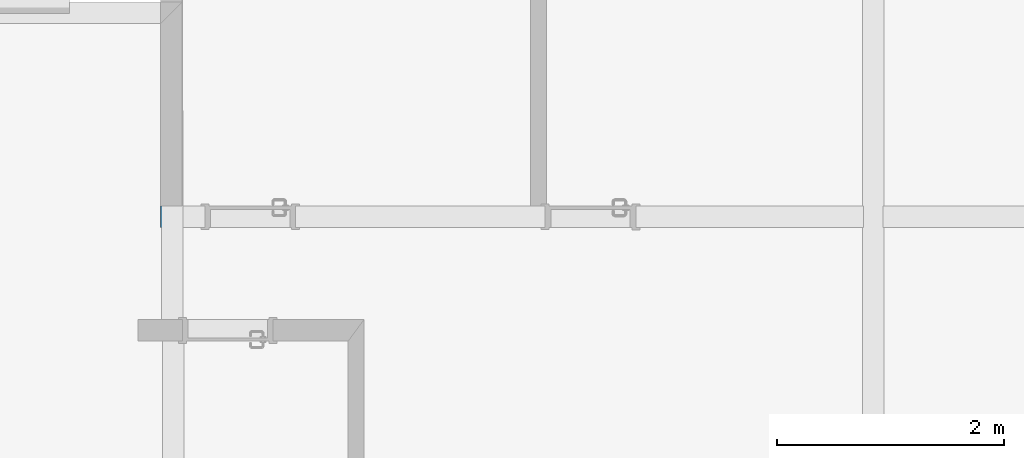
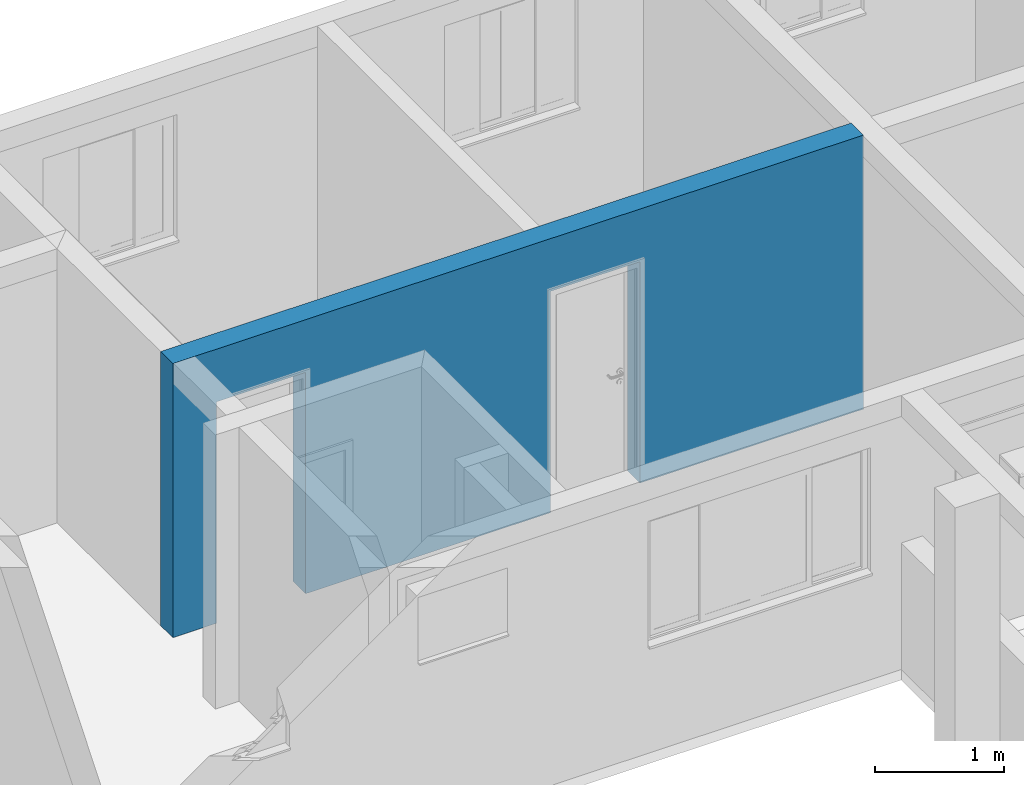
# One storey, part 34 of 43: 1 wall, 2 openings.
"""IFC2X3 building model written with IfcOpenShell, lengths in millimetres."""

from ifc_helpers import new_model, entity, si_unit, converted_unit, derived_unit, money_unit, direction, frame, origin_with_axes, origin_2d_with_axis, place, context, subcontext, project, spatial, polyline, rectangle, outline, extrude, material, layer, layer_set, layer_usage, type_object, element, save


model = new_model("IFC2X3")

# Units and contexts
model_context = context("Model", 3, precision=0.01, world=origin_with_axes(), true_north=direction((0.0, 1.0)))
body_context = subcontext(model_context, "Body", "Model", "MODEL_VIEW")
ifc_project = project(units=[si_unit("LENGTHUNIT", "METRE", prefix="MILLI"), si_unit("AREAUNIT", "SQUARE_METRE"), si_unit("VOLUMEUNIT", "CUBIC_METRE"), converted_unit("PLANEANGLEUNIT", "DEGREE", entity("IfcPlaneAngleMeasure", 0.0174532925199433), si_unit("PLANEANGLEUNIT", "RADIAN"), dimensions=[0, 0, 0, 0, 0, 0, 0]), money_unit("USD"), converted_unit("TIMEUNIT", "Year", entity("IfcTimeMeasure", 31557600.0), si_unit("TIMEUNIT", "SECOND"), dimensions=[0, 0, 1, 0, 0, 0, 0]), si_unit("MASSUNIT", "GRAM", prefix="KILO"), si_unit("THERMODYNAMICTEMPERATUREUNIT", "DEGREE_CELSIUS"), si_unit("LUMINOUSINTENSITYUNIT", "LUMEN"), si_unit("ENERGYUNIT", "JOULE", prefix="MEGA"), derived_unit("THERMALCONDUCTANCEUNIT", [(si_unit("POWERUNIT", "WATT"), 1), (si_unit("LENGTHUNIT", "METRE"), -1), (si_unit("THERMODYNAMICTEMPERATUREUNIT", "KELVIN"), -1)]), derived_unit("SPECIFICHEATCAPACITYUNIT", [(si_unit("ENERGYUNIT", "JOULE"), 1), (si_unit("MASSUNIT", "GRAM", prefix="KILO"), -1), (si_unit("THERMODYNAMICTEMPERATUREUNIT", "KELVIN"), -1)]), derived_unit("MASSDENSITYUNIT", [(si_unit("MASSUNIT", "GRAM", prefix="KILO"), 1), (si_unit("VOLUMEUNIT", "CUBIC_METRE"), -1)])], contexts=[model_context])

# Site, building, storey
site_placement = place(None, origin_with_axes())
site = spatial("IfcSite", under=ifc_project, at=site_placement, Name="Local", CompositionType="ELEMENT")
building_placement = place(site_placement, origin_with_axes())
building = spatial("IfcBuilding", under=site, at=building_placement, Name="Construção", CompositionType="ELEMENT")
storey_placement = place(building_placement, origin_with_axes())
storey = spatial("IfcBuildingStorey", under=building, at=storey_placement, Name="Pavimento Tipo", CompositionType="ELEMENT", Elevation=0.0)

# Wall, openings
ifc_material = material(Name="Concreto - Estrutural")
ifc_layer = layer(ifc_material, 190.0, ventilated="UNKNOWN")
ifc_layer_set = layer_set([ifc_layer], Name="Concreto - Estrutural 190")
ifc_layer_usage = layer_usage(ifc_layer_set, "AXIS2", "POSITIVE", -190.0)
wall_type = type_object("IfcWallType", Name="Concreto - Estrutural 190", PredefinedType="NOTDEFINED")
wall_placement = place(storey_placement, frame((63710.25571518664, 8843.373116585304, 0.0), z_axis=(0.0, 0.0, 1.0), x_axis=(-0.9999999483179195, 0.0003215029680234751, 0.0)))
wall = element("IfcWallStandardCase", 1, at=wall_placement, inside=storey, type_object=wall_type, material=ifc_layer_usage, Name="Apartamento 2 - Parede-007", context=body_context, shape_type="SweptSolid", body=[
    extrude(outline(polyline([(0.0, -190.0000000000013), (6195.390722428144, -190.0000000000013), (6195.390722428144, 0.0), (0.0, 0.0), (0.0, -190.0000000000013)])), origin_with_axes(), (0.0, 0.0, 1.0), 2600.0),
])
opening_1_placement = place(wall_placement, frame((5405.39074258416, 0.0, 0.0), z_axis=(0.0, 0.0, 1.0), x_axis=(1.0, 0.0, 0.0)))
element("IfcOpeningElement", 2, at=opening_1_placement, cuts=wall, Name="Apartamento 2 - P03", context=body_context, shape_type="SweptSolid", body=[
    extrude(rectangle(XDim=800.0000000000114, YDim=2100.0, at=origin_2d_with_axis()), frame((0.0, -190.0000000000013, 1050.0), z_axis=(0.0, -1.0, 0.0), x_axis=(1.0, 0.0, 0.0)), (0.0, 0.0, -1.0), 570.0000000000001),
    extrude(rectangle(XDim=869.9999999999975, YDim=2135.0, at=origin_2d_with_axis()), frame((0.0, -190.0000000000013, 1067.5), z_axis=(0.0, -1.0, 0.0), x_axis=(1.0, 0.0, 0.0)), (0.0, 0.0, 1.0), 190.0),
    extrude(rectangle(XDim=869.9999999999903, YDim=2135.0, at=origin_2d_with_axis()), frame((0.0, 0.0, 1067.5), z_axis=(0.0, 1.0, 0.0), x_axis=(1.0, 0.0, 0.0)), (0.0, 0.0, 1.0), 190.0),
])
opening_2_placement = place(wall_placement, frame((2405.390897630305, 0.0, 0.0), z_axis=(0.0, 0.0, 1.0), x_axis=(1.0, 0.0, 0.0)))
element("IfcOpeningElement", 3, at=opening_2_placement, cuts=wall, Name="Apartamento 2 - P04", context=body_context, shape_type="SweptSolid", body=[
    extrude(rectangle(XDim=800.0000000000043, YDim=2100.0, at=origin_2d_with_axis()), frame((0.0, -189.9999999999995, 1050.0), z_axis=(0.0, -1.0, 0.0), x_axis=(1.0, 0.0, 0.0)), (0.0, 0.0, -1.0), 570.0000000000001),
    extrude(rectangle(XDim=870.0000000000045, YDim=2135.0, at=origin_2d_with_axis()), frame((0.0, -189.9999999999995, 1067.5), z_axis=(0.0, -1.0, 0.0), x_axis=(1.0, 0.0, 0.0)), (0.0, 0.0, 1.0), 190.0),
    extrude(rectangle(XDim=869.9999999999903, YDim=2135.0, at=origin_2d_with_axis()), frame((0.0, 0.0, 1067.5), z_axis=(0.0, 1.0, 0.0), x_axis=(1.0, 0.0, 0.0)), (0.0, 0.0, 1.0), 190.0),
])

save(model, "model.ifc")
